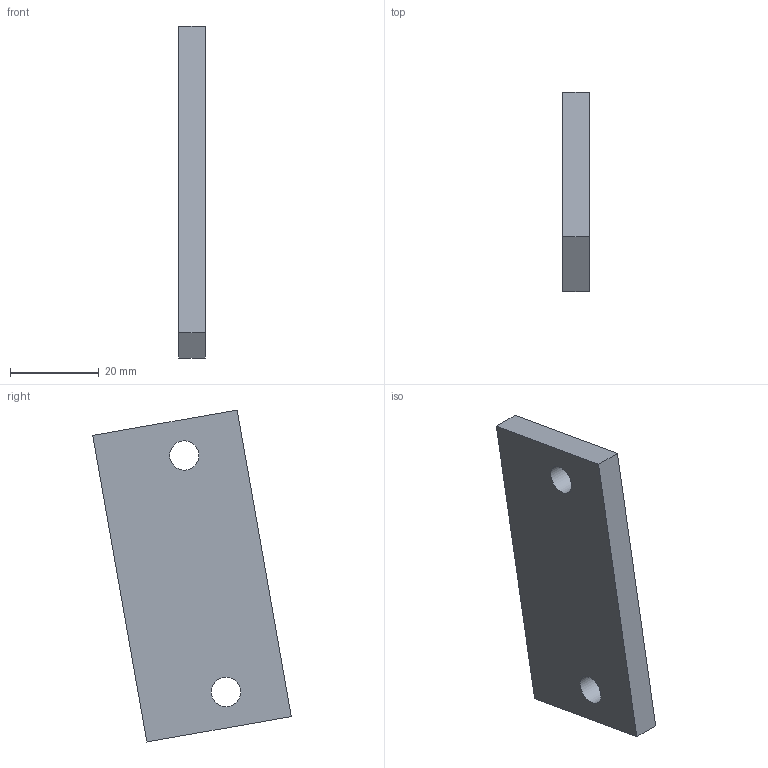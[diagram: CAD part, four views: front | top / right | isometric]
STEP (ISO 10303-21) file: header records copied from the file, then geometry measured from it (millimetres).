
FILE_DESCRIPTION(('golf model'),'2;1');
FILE_NAME('golf','',(''),(''),'golf_step_io','golf','');
FILE_SCHEMA(('AUTOMOTIVE_DESIGN { 1 0 10303 214 1 1 1 1 }'));
Length unit declared in the file: millimetre
Products named in the file (2): ASSEMBLY; y_carriage.z_spacer_bk
Assembly tree (1 placements, depth 2):
  ASSEMBLY
    y_carriage.z_spacer_bk
Bounding box: 6 x 44.65 x 74.67 mm (x, y, z)
Volume: 13449.5 mm3; surface area: 5968 mm2
Topology: 1 solids, 1 shells, 8 faces, 18 edges, 12 vertices
Faces by surface type: plane 6, cylinder 2
Full cylindrical faces by diameter (mm): 6.6 x2
Entity records: 258 total; most frequent: DIRECTION 40, CARTESIAN_POINT 38, ORIENTED_EDGE 32, EDGE_CURVE 16, AXIS2_PLACEMENT_3D 14, EDGE_LOOP 14, VERTEX_POINT 12, VECTOR 12
